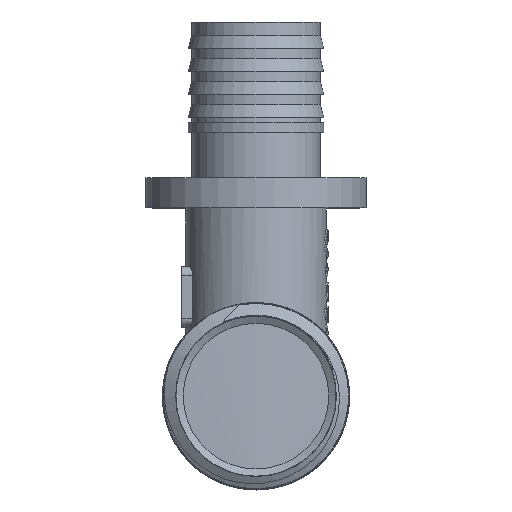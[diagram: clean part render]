
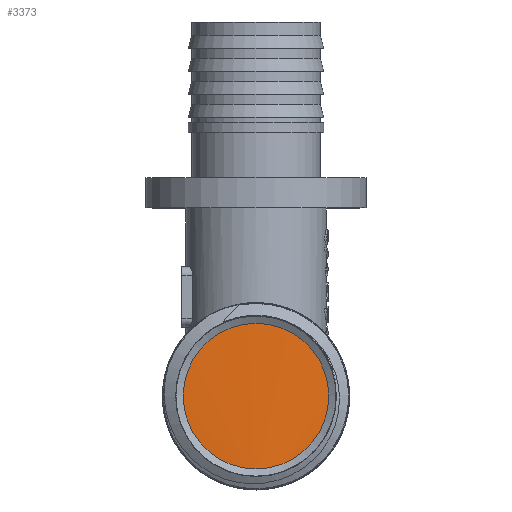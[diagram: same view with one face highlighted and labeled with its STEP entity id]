
A CAD part, top view. The second image highlights one B-rep face of the part: STEP entity #3373.
In plain terms, the highlighted cylindrical face has radius 9.315 mm (diameter 18.63 mm), a full revolution.
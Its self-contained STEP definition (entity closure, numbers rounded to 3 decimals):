
#360=FACE_OUTER_BOUND('',#555,.T.);
#555=EDGE_LOOP('',(#3086,#3087,#3088));
#824=B_SPLINE_CURVE_WITH_KNOTS('',3,(#7353,#7354,#7355,#7356,#7357,#7358,
#7359,#7360,#7361,#7362,#7363,#7364,#7365,#7366,#7367,#7368,#7369),
 .UNSPECIFIED.,.F.,.F.,(4,1,1,1,1,1,1,1,1,1,1,1,1,1,4),(6.283,
6.59,7.083,7.577,8.07,8.563,
9.057,9.55,10.044,10.537,11.03,
11.524,12.017,12.511,12.566),
 .UNSPECIFIED.);
#1056=LINE('',#6866,#1277);
#1065=LINE('',#7352,#1286);
#1277=VECTOR('',#4263,9.315);
#1286=VECTOR('',#4292,9.315);
#1597=VERTEX_POINT('',#6864);
#1598=VERTEX_POINT('',#6865);
#1614=VERTEX_POINT('',#7351);
#2088=EDGE_CURVE('',#1597,#1598,#1056,.T.);
#2113=EDGE_CURVE('',#1614,#1598,#1065,.T.);
#2114=EDGE_CURVE('',#1614,#1597,#824,.T.);
#3086=ORIENTED_EDGE('',*,*,#2088,.T.);
#3087=ORIENTED_EDGE('',*,*,#2113,.F.);
#3088=ORIENTED_EDGE('',*,*,#2114,.T.);
#3201=CYLINDRICAL_SURFACE('',#3623,9.315);
#3373=ADVANCED_FACE('',(#360),#3201,.T.);
#3623=AXIS2_PLACEMENT_3D('',#7350,#4290,#4291);
#4263=DIRECTION('',(0.,0.,1.));
#4290=DIRECTION('center_axis',(0.,0.,1.));
#4291=DIRECTION('ref_axis',(0.,1.,0.));
#4292=DIRECTION('',(0.,0.,-1.));
#6864=CARTESIAN_POINT('',(0.,-46.615,33.176));
#6865=CARTESIAN_POINT('',(0.,-46.615,34.975));
#6866=CARTESIAN_POINT('',(0.,-46.615,28.65));
#7350=CARTESIAN_POINT('Origin',(0.,-37.3,28.65));
#7351=CARTESIAN_POINT('',(0.,-46.615,34.992));
#7352=CARTESIAN_POINT('',(0.,-46.615,28.65));
#7353=CARTESIAN_POINT('Ctrl Pts',(0.,-46.614,
34.992));
#7354=CARTESIAN_POINT('Ctrl Pts',(-0.952,-46.614,34.962));
#7355=CARTESIAN_POINT('Ctrl Pts',(-3.437,-46.235,34.885));
#7356=CARTESIAN_POINT('Ctrl Pts',(-6.96,-44.058,34.76));
#7357=CARTESIAN_POINT('Ctrl Pts',(-9.331,-39.956,34.618));
#7358=CARTESIAN_POINT('Ctrl Pts',(-9.476,-35.22,34.475));
#7359=CARTESIAN_POINT('Ctrl Pts',(-7.36,-30.98,34.333));
#7360=CARTESIAN_POINT('Ctrl Pts',(-3.489,-28.248,34.19));
#7361=CARTESIAN_POINT('Ctrl Pts',(1.214,-27.675,34.047));
#7362=CARTESIAN_POINT('Ctrl Pts',(5.628,-29.398,33.905));
#7363=CARTESIAN_POINT('Ctrl Pts',(8.7,-33.006,33.762));
#7364=CARTESIAN_POINT('Ctrl Pts',(9.696,-37.639,33.62));
#7365=CARTESIAN_POINT('Ctrl Pts',(8.379,-42.19,33.477));
#7366=CARTESIAN_POINT('Ctrl Pts',(5.063,-45.575,33.334));
#7367=CARTESIAN_POINT('Ctrl Pts',(1.878,-46.569,33.234));
#7368=CARTESIAN_POINT('Ctrl Pts',(0.173,-46.616,33.181));
#7369=CARTESIAN_POINT('Ctrl Pts',(0.,-46.616,
33.176));
